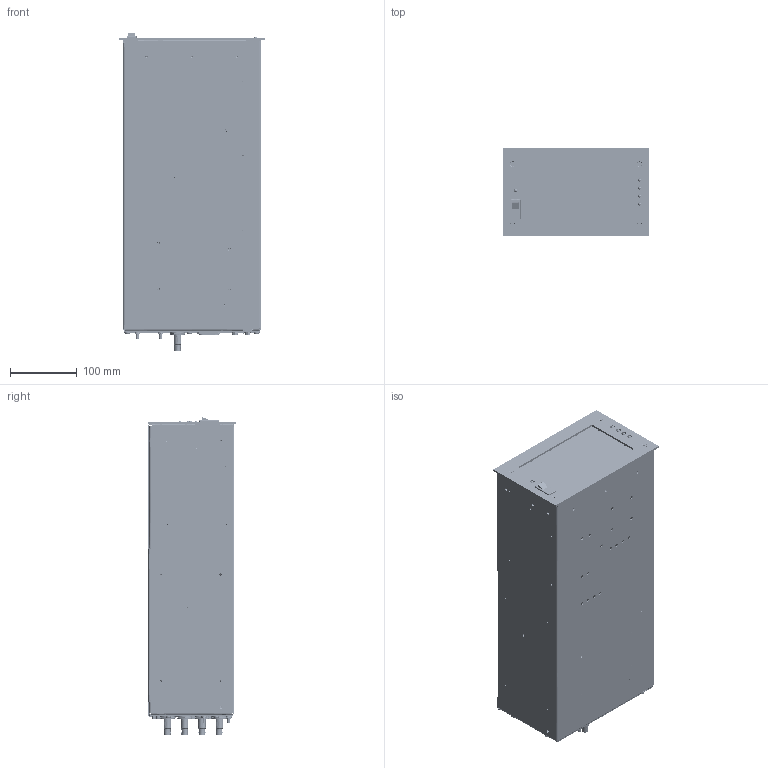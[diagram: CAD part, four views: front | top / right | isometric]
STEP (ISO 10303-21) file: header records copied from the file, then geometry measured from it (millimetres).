
FILE_DESCRIPTION((''),'2;1');
FILE_NAME('STD','2016-04-15T',('gollab'),('Gamma Vacuum, LLC'),'PRO/ENGINEER BY PARAMETRIC TECHNOLOGY CORPORATION, 2010280','PRO/ENGINEER BY PARAMETRIC TECHNOLOGY CORPORATION, 2010280','');
FILE_SCHEMA(('AUTOMOTIVE_DESIGN_CC2 { 1 2 10303 214 -1 1 5 2 }'));
Products named in the file (1): STD
Bounding box: 219.2 x 132.54 x 477.74 mm (x, y, z)
Surface area: 1349080.3 mm2 (no closed solid volume)
Topology: 0 solids, 0 shells, 10478 faces, 54196 edges, 53508 vertices
Faces by surface type: bspline 9868, torus 592, sphere 18
Entity records: 994046 total; most frequent: CARTESIAN_POINT 351803, DIRECTION 75484, TRIMMED_CURVE 66158, VECTOR 58052, LINE 58052, DEFINITIONAL_REPRESENTATION 52982, PCURVE 52982, COMPOSITE_CURVE_SEGMENT 52982
